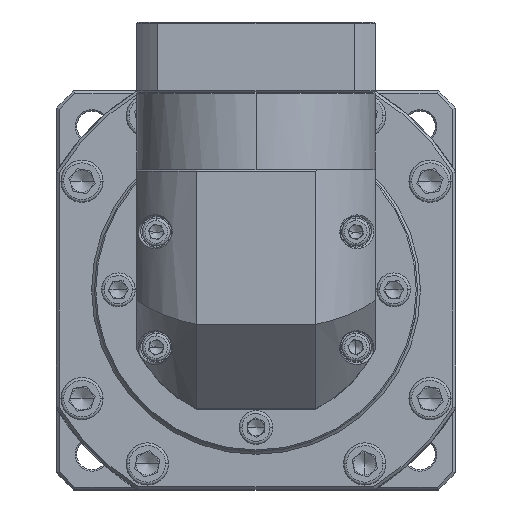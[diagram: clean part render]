
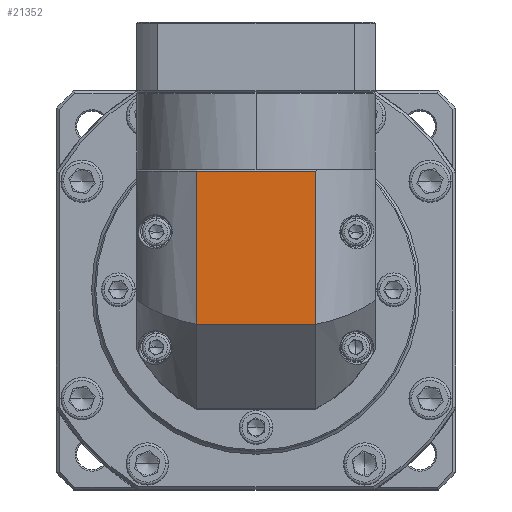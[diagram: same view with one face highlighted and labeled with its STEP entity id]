
A CAD part, top view. The second image highlights one B-rep face of the part: STEP entity #21352.
In plain terms, the highlighted planar face has unit normal (0, 0, 1).
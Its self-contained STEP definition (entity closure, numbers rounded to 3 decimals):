
#1859 = VECTOR ( 'NONE', #110961, 1000. ) ;
#2987 = EDGE_CURVE ( 'NONE', #91685, #32710, #112844, .T. ) ;
#12149 = EDGE_LOOP ( 'NONE', ( #107168, #24610, #62613, #67632 ) ) ;
#21352 = ADVANCED_FACE ( 'NONE', ( #58437 ), #104092, .T. ) ;
#24610 = ORIENTED_EDGE ( 'NONE', *, *, #2987, .F. ) ;
#30715 = DIRECTION ( 'NONE',  ( -1., 0., 0. ) ) ;
#30771 = LINE ( 'NONE', #111247, #48547 ) ;
#32710 = VERTEX_POINT ( 'NONE', #92985 ) ;
#33848 = LINE ( 'NONE', #110015, #1859 ) ;
#36021 = DIRECTION ( 'NONE',  ( 0., 1., 0. ) ) ;
#39173 = CARTESIAN_POINT ( 'NONE',  ( -54.661, 68.091, 449.802 ) ) ;
#48547 = VECTOR ( 'NONE', #30715, 1000. ) ;
#48859 = DIRECTION ( 'NONE',  ( 0., 0., 1. ) ) ;
#58437 = FACE_OUTER_BOUND ( 'NONE', #12149, .T. ) ;
#62470 = DIRECTION ( 'NONE',  ( 0., -1., 0. ) ) ;
#62613 = ORIENTED_EDGE ( 'NONE', *, *, #136954, .F. ) ;
#63585 = EDGE_CURVE ( 'NONE', #32710, #67307, #33848, .T. ) ;
#63649 = CARTESIAN_POINT ( 'NONE',  ( -33.448, 13.591, 449.802 ) ) ;
#67307 = VERTEX_POINT ( 'NONE', #39173 ) ;
#67632 = ORIENTED_EDGE ( 'NONE', *, *, #78011, .T. ) ;
#73004 = AXIS2_PLACEMENT_3D ( 'NONE', #117005, #48859, #36021 ) ;
#78011 = EDGE_CURVE ( 'NONE', #104238, #67307, #30771, .T. ) ;
#79637 = LINE ( 'NONE', #143109, #140216 ) ;
#91685 = VERTEX_POINT ( 'NONE', #96806 ) ;
#92985 = CARTESIAN_POINT ( 'NONE',  ( -54.661, 13.591, 449.802 ) ) ;
#96806 = CARTESIAN_POINT ( 'NONE',  ( -12.235, 13.591, 449.802 ) ) ;
#96823 = VECTOR ( 'NONE', #103052, 1000. ) ;
#103052 = DIRECTION ( 'NONE',  ( -1., 0., 0. ) ) ;
#104092 = PLANE ( 'NONE',  #73004 ) ;
#104238 = VERTEX_POINT ( 'NONE', #122696 ) ;
#107168 = ORIENTED_EDGE ( 'NONE', *, *, #63585, .F. ) ;
#110015 = CARTESIAN_POINT ( 'NONE',  ( -54.661, -31.909, 449.802 ) ) ;
#110961 = DIRECTION ( 'NONE',  ( 0., 1., 0. ) ) ;
#111247 = CARTESIAN_POINT ( 'NONE',  ( -33.448, 68.091, 449.802 ) ) ;
#112844 = LINE ( 'NONE', #63649, #96823 ) ;
#117005 = CARTESIAN_POINT ( 'NONE',  ( -33.448, 26.091, 449.802 ) ) ;
#122696 = CARTESIAN_POINT ( 'NONE',  ( -12.235, 68.091, 449.802 ) ) ;
#136954 = EDGE_CURVE ( 'NONE', #104238, #91685, #79637, .T. ) ;
#140216 = VECTOR ( 'NONE', #62470, 1000. ) ;
#143109 = CARTESIAN_POINT ( 'NONE',  ( -12.235, -31.909, 449.802 ) ) ;
